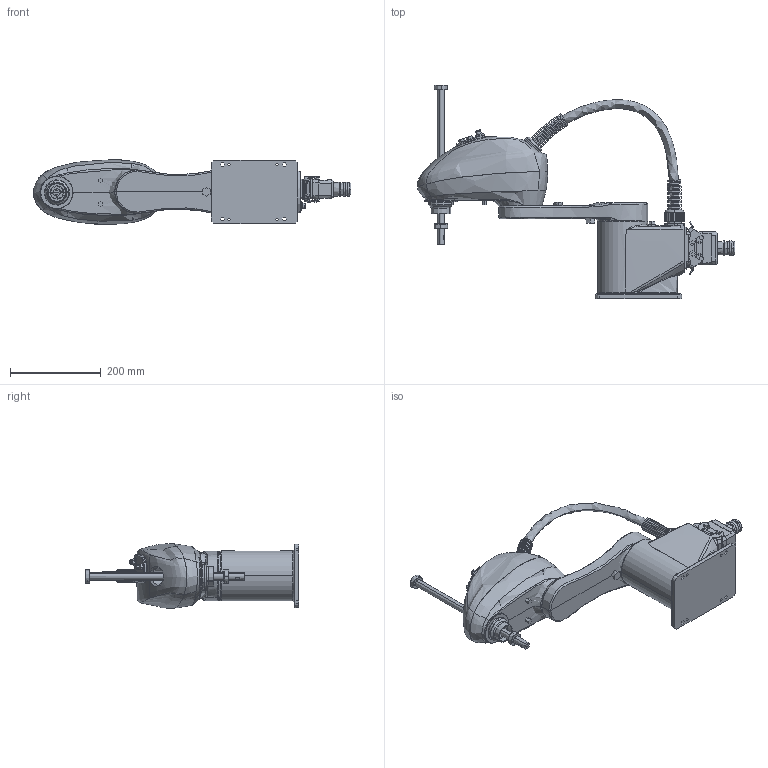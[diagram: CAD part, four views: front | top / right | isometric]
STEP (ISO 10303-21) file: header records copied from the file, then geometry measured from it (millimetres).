
FILE_DESCRIPTION (( 'STEP AP214' ), '1' );
FILE_NAME ('SCR003-400.STEP', '2018-12-10T07:28:33', ( 'USER' ), ( '' ), 'SwSTEP 2.0', 'SolidWorks 2016', '' );
FILE_SCHEMA (( 'AUTOMOTIVE_DESIGN' ));
Length unit declared in the file: millimetre
Products named in the file (9): hexagon socket head cap screws gb_GB_FASTENER_SCREWS_HSHCS M8X12-N; J1菁釱; 狟滅鳥杶^SCR003-400; 癹弇覃淕輸^SCR003-400; 儕躇幗紩佪裝^SCR003-400; J2_Default<偌樓馱>; 俋繞盄奪; J1酗旋; SCR003-400
Assembly tree (10 placements, depth 2):
  SCR003-400
    J1酗旋
    俋繞盄奪
    J2_Default<偌樓馱>
    儕躇幗紩佪裝^SCR003-400
    癹弇覃淕輸^SCR003-400  x2
    狟滅鳥杶^SCR003-400
    J1菁釱
    hexagon socket head cap screws gb_GB_FASTENER_SCREWS_HSHCS M8X12-N  x2
Bounding box: 699.27 x 469.2 x 141.95 mm (x, y, z)
Volume: 8175545.8 mm3; surface area: 614945.7 mm2
Topology: 19 solids, 61 shells, 2301 faces, 5541 edges, 3470 vertices
Faces by surface type: plane 1005, cylinder 667, bspline 497, cone 100, torus 32
Entity records: 107109 total; most frequent: CARTESIAN_POINT 55900, ORIENTED_EDGE 10710, DIRECTION 9191, EDGE_CURVE 5355, VERTEX_POINT 3391, AXIS2_PLACEMENT_3D 3347, LINE 2497, VECTOR 2497
